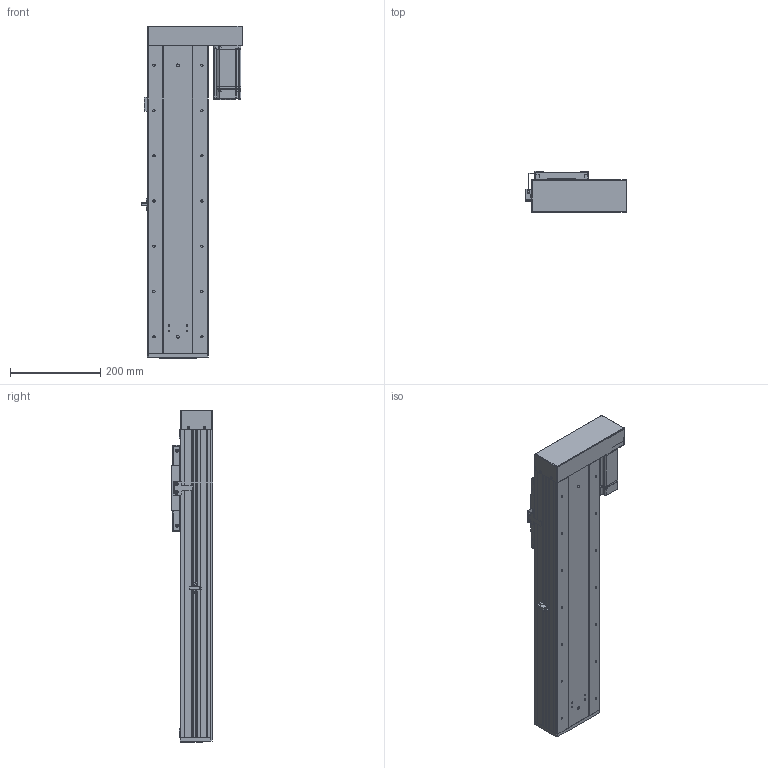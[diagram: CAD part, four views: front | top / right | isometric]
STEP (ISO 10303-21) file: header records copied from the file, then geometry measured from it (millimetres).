
FILE_DESCRIPTION (( 'STEP AP203' ), '1' );
FILE_NAME ('RY140F-L2020-300-RK.SLDASM_400.step', '2021-03-02T08:50:09', ( '盈信电脑' ), ( '东莞市道滘镇水果街19号' ), 'SwSTEP 2.0', 'SolidWorks 2012', '' );
FILE_SCHEMA (( 'CONFIG_CONTROL_DESIGN' ));
Products named in the file (19): RY140F-L2020-300-RK.SLDASM_400; RY140F-酘衵殏萇儂欶(400W); 侐源滅袉蝶; RY140F-转折折电机座（7001）; RY140F-左右折电机安装板(400W M5); RY140F-672覜茼んえ; 侂狟400W侜督萇儂; RY140F-詩湍揤え; 覜茼ん672; RY140F-直连型材铝滑块(16丝杆); RY100F-詩湍揤踡謫; RY140F-后盖板(铝件）; 15; RY140F-詩湍幗謫粣; RY140F-滅鳥奻裔; RY140F-直连型材铝滑块连接座; RY140F-300-RK倰第菁釱_400; RY140F-300-RK倰第奻裔啣_400; RY140F-300-RK蛌殏詩湍_400
Assembly tree (23 placements, depth 3):
  RY140F-L2020-300-RK.SLDASM_400
    RY140F-300-RK倰第菁釱_400
    RY140F-300-RK倰第奻裔啣_400  x2
    RY140F-300-RK蛌殏詩湍_400
    RY140F-直连型材铝滑块连接座
    RY140F-滅鳥奻裔
    RY140F-詩湍幗謫粣
    RY100F-詩湍揤踡謫
    RY140F-直连型材铝滑块(16丝杆)
    RY140F-后盖板(铝件）
    侂狟400W侜督萇儂
      15
    覜茼ん672
    RY140F-672覜茼んえ
    RY140F-詩湍揤え  x2
    侐源滅袉蝶  x4
    RY140F-转折折电机座（7001）
    RY140F-左右折电机安装板(400W M5)
    RY140F-酘衵殏萇儂欶(400W)
Bounding box: 224.7 x 91 x 734 mm (x, y, z)
Volume: 3205738.5 mm3; surface area: 1135033.5 mm2
Topology: 22 solids, 22 shells, 2001 faces, 5461 edges, 3472 vertices
Faces by surface type: cylinder 968, plane 789, cone 214, bspline 26, torus 4
Entity records: 63263 total; most frequent: CARTESIAN_POINT 13425, DIRECTION 10106, ORIENTED_EDGE 9834, EDGE_CURVE 4917, AXIS2_PLACEMENT_3D 3617, VERTEX_POINT 3212, VECTOR 2872, LINE 2872
